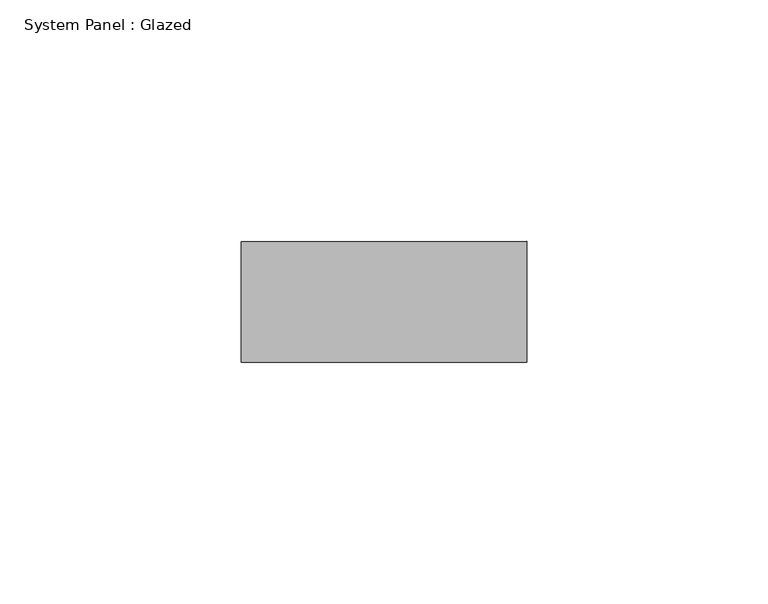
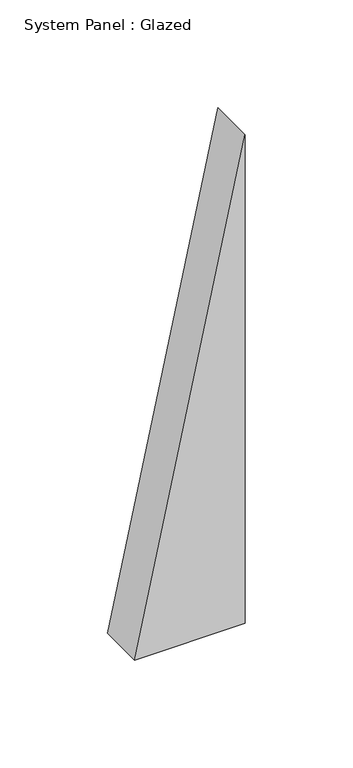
"""IFC4 building model written with IfcOpenShell, lengths in millimetres: plate geometry, System Panel : Glazed."""

from ifc_helpers import new_model, si_unit, frame, origin, place, context, project, spatial, polyline, outline, extrude, source, transform, mapped, element, save


def system_panel_glazed_a6be7c91(model_context):
    return source(origin(), model_context, "Body", "SweptSolid", [
        extrude(outline(polyline([(0.0, -29.5367313), (0.0, 29.5367313), (276.2496228, 29.5367313), (0.0, -29.5367313)])), frame((0.0, -49.5, 0.0), z_axis=(0.0, 1.0, 0.0), x_axis=(0.0, 0.0, 1.0)), (0.0, 0.0, 1.0), 25.0),
    ])


if __name__ == "__main__":
    model = new_model("IFC4")
    model_context = context("Model", 3, world=origin())
    ifc_project = project(units=[si_unit("LENGTHUNIT", "METRE", prefix="MILLI")], contexts=[model_context])
    site = spatial("IfcSite", under=ifc_project)
    building = spatial("IfcBuilding", under=site)
    placement = place(None, origin())
    system_panel_glazed_shape = system_panel_glazed_a6be7c91(model_context)
    element("IfcPlate", 1, ObjectType="System Panel : Glazed", at=placement, inside=building, context=model_context, shape_type="MappedRepresentation", body=[
        mapped(system_panel_glazed_shape, transform((0.0, 0.0, 0.0), x_axis=(1.0, 0.0, 0.0), y_axis=(0.0, 1.0, 0.0), z_axis=(0.0, 0.0, 1.0))),
    ])
    save(model, "model.ifc")
